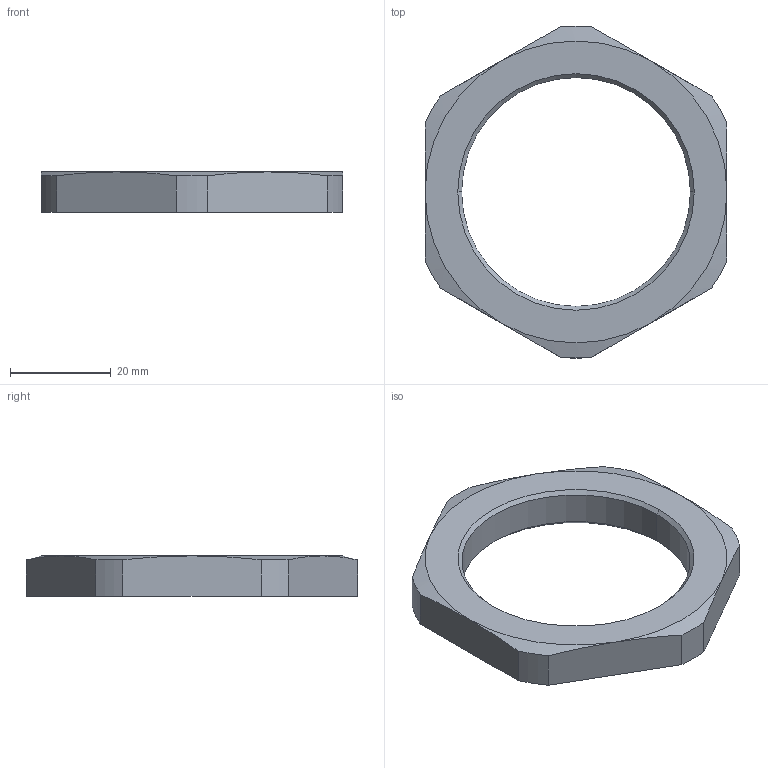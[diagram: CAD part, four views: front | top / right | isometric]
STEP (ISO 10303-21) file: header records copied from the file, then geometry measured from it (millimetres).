
FILE_DESCRIPTION (( 'STEP AP203' ), '1' );
FILE_NAME ('236 PA.STEP', '2007-01-04T09:19:27', ( ' ' ), ( '' ), 'SwSTEP 2.0', 'SolidWorks 2005278', '' );
FILE_SCHEMA (( 'CONFIG_CONTROL_DESIGN' ));
Length unit declared in the file: millimetre
Products named in the file (1): 236 PA
Bounding box: 60 x 65.97 x 8 mm (x, y, z)
Volume: 11543.2 mm3; surface area: 5501.3 mm2
Topology: 1 solids, 1 shells, 63 faces, 164 edges, 106 vertices
Faces by surface type: plane 45, cone 10, cylinder 8
Entity records: 2021 total; most frequent: CARTESIAN_POINT 394, ORIENTED_EDGE 328, DIRECTION 306, EDGE_CURVE 164, VECTOR 126, LINE 126, VERTEX_POINT 106, AXIS2_PLACEMENT_3D 90
